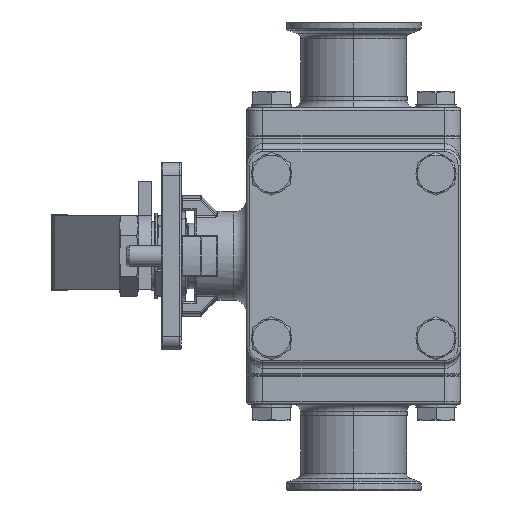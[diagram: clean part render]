
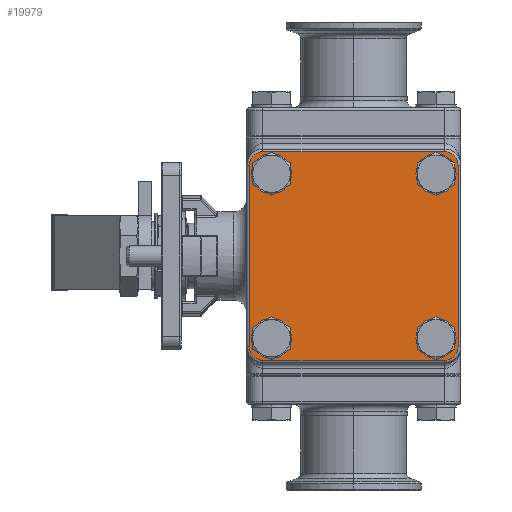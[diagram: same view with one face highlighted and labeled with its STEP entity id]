
A CAD part, left-side view. The second image highlights one B-rep face of the part: STEP entity #19979.
In plain terms, the highlighted planar face has unit normal (-1, 0, 0) as drawn and (0, 0, 1) by its records, which use the part's own axes.
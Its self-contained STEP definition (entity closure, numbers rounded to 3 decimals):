
#147 = EDGE_LOOP ( 'NONE', ( #25822, #6084, #31267, #7450, #15301, #22471, #16850, #6646 ) ) ;
#163 = LINE ( 'NONE', #14314, #16210 ) ;
#621 = LINE ( 'NONE', #28266, #5976 ) ;
#737 = CARTESIAN_POINT ( 'NONE',  ( -36.009, 30.759, 7. ) ) ;
#1290 = CARTESIAN_POINT ( 'NONE',  ( 30.759, -30.759, 7. ) ) ;
#1362 = DIRECTION ( 'NONE',  ( 1., 0., 0. ) ) ;
#1648 = VERTEX_POINT ( 'NONE', #32064 ) ;
#1682 = DIRECTION ( 'NONE',  ( 1., 0., 0. ) ) ;
#1791 = CIRCLE ( 'NONE', #32712, 5. ) ;
#2028 = CIRCLE ( 'NONE', #19279, 5.25 ) ;
#2329 = CARTESIAN_POINT ( 'NONE',  ( 34., -39., 7. ) ) ;
#2791 = CIRCLE ( 'NONE', #11387, 5.25 ) ;
#2802 = CIRCLE ( 'NONE', #30797, 5. ) ;
#2886 = ORIENTED_EDGE ( 'NONE', *, *, #10616, .F. ) ;
#3215 = CARTESIAN_POINT ( 'NONE',  ( 39., 34., 7. ) ) ;
#3287 = DIRECTION ( 'NONE',  ( 1., 0., 0. ) ) ;
#3387 = AXIS2_PLACEMENT_3D ( 'NONE', #6860, #11706, #1362 ) ;
#3512 = VERTEX_POINT ( 'NONE', #6211 ) ;
#3830 = EDGE_CURVE ( 'NONE', #15201, #19889, #33022, .T. ) ;
#3858 = CARTESIAN_POINT ( 'NONE',  ( -34., -34., 7. ) ) ;
#4013 = VERTEX_POINT ( 'NONE', #18382 ) ;
#4101 = DIRECTION ( 'NONE',  ( 0., 0., 1. ) ) ;
#4507 = VERTEX_POINT ( 'NONE', #26397 ) ;
#4981 = ORIENTED_EDGE ( 'NONE', *, *, #20159, .F. ) ;
#5054 = EDGE_CURVE ( 'NONE', #3512, #11305, #11489, .T. ) ;
#5314 = CARTESIAN_POINT ( 'NONE',  ( 34., 34., 7. ) ) ;
#5678 = CARTESIAN_POINT ( 'NONE',  ( 34., 39., 7. ) ) ;
#5950 = AXIS2_PLACEMENT_3D ( 'NONE', #5314, #23722, #20938 ) ;
#5976 = VECTOR ( 'NONE', #23245, 1000. ) ;
#6084 = ORIENTED_EDGE ( 'NONE', *, *, #29887, .T. ) ;
#6211 = CARTESIAN_POINT ( 'NONE',  ( -25.509, -30.759, 7. ) ) ;
#6497 = CARTESIAN_POINT ( 'NONE',  ( -34., 39., 7. ) ) ;
#6646 = ORIENTED_EDGE ( 'NONE', *, *, #17510, .T. ) ;
#6672 = DIRECTION ( 'NONE',  ( 1., 0., 0. ) ) ;
#6699 = CIRCLE ( 'NONE', #8426, 5.25 ) ;
#6860 = CARTESIAN_POINT ( 'NONE',  ( 34., -34., 7. ) ) ;
#6950 = DIRECTION ( 'NONE',  ( -1., 0., 0. ) ) ;
#7450 = ORIENTED_EDGE ( 'NONE', *, *, #28275, .T. ) ;
#7520 = ORIENTED_EDGE ( 'NONE', *, *, #11817, .F. ) ;
#7529 = VERTEX_POINT ( 'NONE', #27918 ) ;
#8241 = AXIS2_PLACEMENT_3D ( 'NONE', #31386, #10763, #28775 ) ;
#8426 = AXIS2_PLACEMENT_3D ( 'NONE', #10622, #23830, #28976 ) ;
#9403 = CARTESIAN_POINT ( 'NONE',  ( -36.009, -30.759, 7. ) ) ;
#9498 = CARTESIAN_POINT ( 'NONE',  ( 36.009, -30.759, 7. ) ) ;
#9506 = CIRCLE ( 'NONE', #25404, 5.25 ) ;
#9865 = CARTESIAN_POINT ( 'NONE',  ( -30.759, 30.759, 7. ) ) ;
#10057 = AXIS2_PLACEMENT_3D ( 'NONE', #32393, #32173, #3287 ) ;
#10208 = AXIS2_PLACEMENT_3D ( 'NONE', #1290, #14280, #6672 ) ;
#10313 = EDGE_CURVE ( 'NONE', #33662, #29304, #18652, .T. ) ;
#10456 = EDGE_CURVE ( 'NONE', #19889, #15201, #6699, .T. ) ;
#10524 = VERTEX_POINT ( 'NONE', #13946 ) ;
#10616 = EDGE_CURVE ( 'NONE', #18670, #7529, #30891, .T. ) ;
#10622 = CARTESIAN_POINT ( 'NONE',  ( -30.759, 30.759, 7. ) ) ;
#10763 = DIRECTION ( 'NONE',  ( 0., 0., 1. ) ) ;
#10993 = DIRECTION ( 'NONE',  ( 0., 0., 1. ) ) ;
#11305 = VERTEX_POINT ( 'NONE', #9403 ) ;
#11387 = AXIS2_PLACEMENT_3D ( 'NONE', #28926, #20794, #28459 ) ;
#11489 = CIRCLE ( 'NONE', #10057, 5.25 ) ;
#11706 = DIRECTION ( 'NONE',  ( 0., 0., 1. ) ) ;
#11728 = ORIENTED_EDGE ( 'NONE', *, *, #3830, .F. ) ;
#11788 = DIRECTION ( 'NONE',  ( 1., 0., 0. ) ) ;
#11817 = EDGE_CURVE ( 'NONE', #11305, #3512, #9506, .T. ) ;
#11893 = CARTESIAN_POINT ( 'NONE',  ( -34., 34., 7. ) ) ;
#12336 = FACE_BOUND ( 'NONE', #17523, .T. ) ;
#12398 = CARTESIAN_POINT ( 'NONE',  ( -30.759, -30.759, 7. ) ) ;
#12450 = VERTEX_POINT ( 'NONE', #15630 ) ;
#12950 = CARTESIAN_POINT ( 'NONE',  ( 39., 34., 7. ) ) ;
#13868 = PLANE ( 'NONE',  #23019 ) ;
#13946 = CARTESIAN_POINT ( 'NONE',  ( -34., -39., 7. ) ) ;
#14280 = DIRECTION ( 'NONE',  ( 0., 0., 1. ) ) ;
#14314 = CARTESIAN_POINT ( 'NONE',  ( 34., -39., 7. ) ) ;
#15187 = FACE_OUTER_BOUND ( 'NONE', #147, .T. ) ;
#15201 = VERTEX_POINT ( 'NONE', #30533 ) ;
#15301 = ORIENTED_EDGE ( 'NONE', *, *, #23934, .T. ) ;
#15630 = CARTESIAN_POINT ( 'NONE',  ( 36.009, 30.759, 7. ) ) ;
#16210 = VECTOR ( 'NONE', #1682, 1000. ) ;
#16633 = DIRECTION ( 'NONE',  ( 1., 0., 0. ) ) ;
#16850 = ORIENTED_EDGE ( 'NONE', *, *, #24742, .T. ) ;
#17295 = DIRECTION ( 'NONE',  ( 0., 0., 1. ) ) ;
#17510 = EDGE_CURVE ( 'NONE', #18277, #33662, #23984, .T. ) ;
#17523 = EDGE_LOOP ( 'NONE', ( #31384, #4981 ) ) ;
#17743 = DIRECTION ( 'NONE',  ( 1., 0., 0. ) ) ;
#18107 = DIRECTION ( 'NONE',  ( 0., 1., 0. ) ) ;
#18206 = ORIENTED_EDGE ( 'NONE', *, *, #5054, .F. ) ;
#18277 = VERTEX_POINT ( 'NONE', #2329 ) ;
#18382 = CARTESIAN_POINT ( 'NONE',  ( -39., 34., 7. ) ) ;
#18570 = CIRCLE ( 'NONE', #5950, 5. ) ;
#18652 = LINE ( 'NONE', #12950, #23579 ) ;
#18670 = VERTEX_POINT ( 'NONE', #9498 ) ;
#19243 = CARTESIAN_POINT ( 'NONE',  ( 34., -34., 7. ) ) ;
#19279 = AXIS2_PLACEMENT_3D ( 'NONE', #27944, #17295, #17743 ) ;
#19770 = EDGE_CURVE ( 'NONE', #1648, #12450, #24257, .T. ) ;
#19777 = CARTESIAN_POINT ( 'NONE',  ( 39., -34., 7. ) ) ;
#19889 = VERTEX_POINT ( 'NONE', #737 ) ;
#19979 = ADVANCED_FACE ( 'NONE', ( #15187, #30754, #12336, #32391, #27082 ), #13868, .T. ) ;
#20046 = VECTOR ( 'NONE', #6950, 1000. ) ;
#20159 = EDGE_CURVE ( 'NONE', #12450, #1648, #2028, .T. ) ;
#20172 = ORIENTED_EDGE ( 'NONE', *, *, #10456, .F. ) ;
#20794 = DIRECTION ( 'NONE',  ( 0., 0., 1. ) ) ;
#20938 = DIRECTION ( 'NONE',  ( 1., 0., 0. ) ) ;
#21042 = EDGE_CURVE ( 'NONE', #7529, #18670, #2791, .T. ) ;
#22129 = DIRECTION ( 'NONE',  ( 0., 0., 1. ) ) ;
#22471 = ORIENTED_EDGE ( 'NONE', *, *, #25443, .T. ) ;
#23019 = AXIS2_PLACEMENT_3D ( 'NONE', #19243, #10993, #24429 ) ;
#23245 = DIRECTION ( 'NONE',  ( 0., -1., 0. ) ) ;
#23579 = VECTOR ( 'NONE', #18107, 1000. ) ;
#23722 = DIRECTION ( 'NONE',  ( 0., 0., 1. ) ) ;
#23830 = DIRECTION ( 'NONE',  ( 0., 0., 1. ) ) ;
#23934 = EDGE_CURVE ( 'NONE', #4013, #29540, #621, .T. ) ;
#23984 = CIRCLE ( 'NONE', #3387, 5. ) ;
#24257 = CIRCLE ( 'NONE', #8241, 5.25 ) ;
#24429 = DIRECTION ( 'NONE',  ( 1., 0., 0. ) ) ;
#24742 = EDGE_CURVE ( 'NONE', #10524, #18277, #163, .T. ) ;
#25010 = VERTEX_POINT ( 'NONE', #5678 ) ;
#25126 = CARTESIAN_POINT ( 'NONE',  ( -39., -34., 7. ) ) ;
#25239 = DIRECTION ( 'NONE',  ( 1., 0., 0. ) ) ;
#25404 = AXIS2_PLACEMENT_3D ( 'NONE', #12398, #4101, #25239 ) ;
#25443 = EDGE_CURVE ( 'NONE', #29540, #10524, #2802, .T. ) ;
#25625 = EDGE_CURVE ( 'NONE', #25010, #4507, #27005, .T. ) ;
#25822 = ORIENTED_EDGE ( 'NONE', *, *, #10313, .T. ) ;
#26397 = CARTESIAN_POINT ( 'NONE',  ( -34., 39., 7. ) ) ;
#26920 = EDGE_LOOP ( 'NONE', ( #7520, #18206 ) ) ;
#27005 = LINE ( 'NONE', #6497, #20046 ) ;
#27082 = FACE_BOUND ( 'NONE', #31147, .T. ) ;
#27386 = DIRECTION ( 'NONE',  ( 0., 0., 1. ) ) ;
#27614 = EDGE_LOOP ( 'NONE', ( #29132, #2886 ) ) ;
#27918 = CARTESIAN_POINT ( 'NONE',  ( 25.509, -30.759, 7. ) ) ;
#27944 = CARTESIAN_POINT ( 'NONE',  ( 30.759, 30.759, 7. ) ) ;
#28266 = CARTESIAN_POINT ( 'NONE',  ( -39., -34., 7. ) ) ;
#28275 = EDGE_CURVE ( 'NONE', #4507, #4013, #1791, .T. ) ;
#28459 = DIRECTION ( 'NONE',  ( 1., 0., 0. ) ) ;
#28704 = AXIS2_PLACEMENT_3D ( 'NONE', #9865, #30960, #30634 ) ;
#28775 = DIRECTION ( 'NONE',  ( 1., 0., 0. ) ) ;
#28926 = CARTESIAN_POINT ( 'NONE',  ( 30.759, -30.759, 7. ) ) ;
#28976 = DIRECTION ( 'NONE',  ( 1., 0., 0. ) ) ;
#29132 = ORIENTED_EDGE ( 'NONE', *, *, #21042, .F. ) ;
#29304 = VERTEX_POINT ( 'NONE', #3215 ) ;
#29540 = VERTEX_POINT ( 'NONE', #25126 ) ;
#29887 = EDGE_CURVE ( 'NONE', #29304, #25010, #18570, .T. ) ;
#30533 = CARTESIAN_POINT ( 'NONE',  ( -25.509, 30.759, 7. ) ) ;
#30634 = DIRECTION ( 'NONE',  ( 1., 0., 0. ) ) ;
#30754 = FACE_BOUND ( 'NONE', #26920, .T. ) ;
#30797 = AXIS2_PLACEMENT_3D ( 'NONE', #3858, #27386, #16633 ) ;
#30891 = CIRCLE ( 'NONE', #10208, 5.25 ) ;
#30960 = DIRECTION ( 'NONE',  ( 0., 0., 1. ) ) ;
#31147 = EDGE_LOOP ( 'NONE', ( #20172, #11728 ) ) ;
#31267 = ORIENTED_EDGE ( 'NONE', *, *, #25625, .T. ) ;
#31384 = ORIENTED_EDGE ( 'NONE', *, *, #19770, .F. ) ;
#31386 = CARTESIAN_POINT ( 'NONE',  ( 30.759, 30.759, 7. ) ) ;
#32064 = CARTESIAN_POINT ( 'NONE',  ( 25.509, 30.759, 7. ) ) ;
#32173 = DIRECTION ( 'NONE',  ( 0., 0., 1. ) ) ;
#32391 = FACE_BOUND ( 'NONE', #27614, .T. ) ;
#32393 = CARTESIAN_POINT ( 'NONE',  ( -30.759, -30.759, 7. ) ) ;
#32712 = AXIS2_PLACEMENT_3D ( 'NONE', #11893, #22129, #11788 ) ;
#33022 = CIRCLE ( 'NONE', #28704, 5.25 ) ;
#33662 = VERTEX_POINT ( 'NONE', #19777 ) ;
